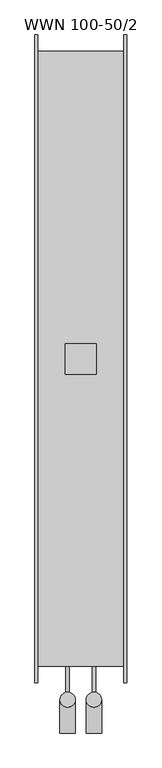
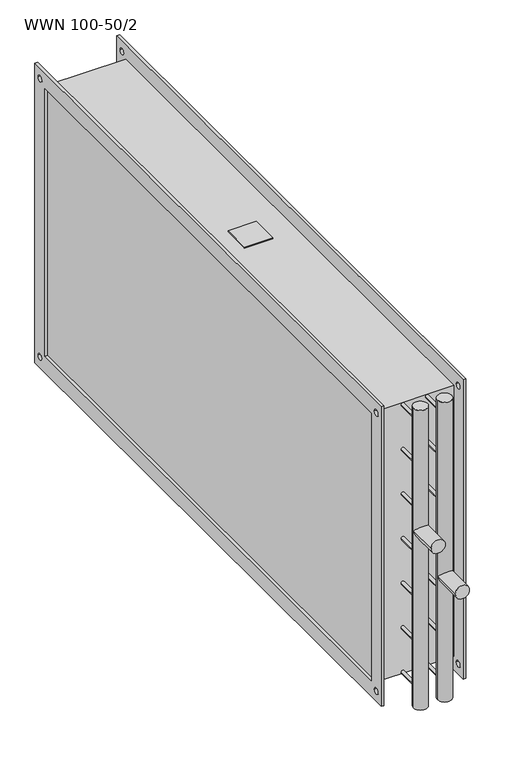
"""IFC4 building model written with IfcOpenShell, lengths in millimetres: proxy geometry, KORF_Нагреватель_Водяной_WWN : WWN 100-50/2."""

import ifcopenshell
import ifcopenshell.guid

model = None  # the IFC model being written
_history = None  # IfcOwnerHistory: only IFC2X3 demands one
_inside = {}  # id of a spatial element -> (the spatial element, [elements in it])
_under = {}  # id of a project, library or spatial element -> (it, [spatial elements below it])
_declared = {}  # id of a project -> (the project, [libraries it declares])
_typed = {}  # id of a type object -> (the type object, [elements of that type])
_made_of = {}  # id of a material, layer set ... -> (it, [elements and type objects made of it])


def new_model(schema):
    """Start an empty IFC model of exactly this schema.

    Asked for "IFC4X3", IfcOpenShell would pick the latest addendum, in which some entities
    have other attributes; the version numbers below select the first issue.
    IFC2X3 requires an IfcOwnerHistory on every rooted entity: one is made here for all.
    """
    global model, _history
    if schema == "IFC4X3":
        model = ifcopenshell.file(schema_version=(4, 3, 0, 0))
    else:
        model = ifcopenshell.file(schema=schema)
    _inside.clear()
    _under.clear()
    _declared.clear()
    _typed.clear()
    _made_of.clear()
    _history = None
    if model.schema == "IFC2X3":
        org = make("IfcOrganization", Name="unknown")
        user = make(
            "IfcPersonAndOrganization",
            ThePerson=make("IfcPerson", FamilyName="unknown"),
            TheOrganization=org,
        )
        app = make(
            "IfcApplication",
            ApplicationDeveloper=org,
            Version="unknown",
            ApplicationFullName="unknown",
            ApplicationIdentifier="unknown",
        )
        _history = make(
            "IfcOwnerHistory",
            OwningUser=user,
            OwningApplication=app,
            ChangeAction="ADDED",
            CreationDate=0,
        )
    return model


def make(cls, **values):
    """One entity of the class cls with the attributes given. An attribute that is None is left unset."""
    return model.create_entity(
        cls, **{name: value for name, value in values.items() if value is not None}
    )


def rooted(cls, **values):
    """An entity with a GlobalId (a new one), such as an element, a storey or a relation."""
    return make(cls, GlobalId=ifcopenshell.guid.new(), OwnerHistory=_history, **values)


def si_unit(unit_type, name, prefix=None):
    """IfcSIUnit, for example si_unit("LENGTHUNIT", "METRE", prefix="MILLI")."""
    return make("IfcSIUnit", UnitType=unit_type, Prefix=prefix, Name=name)


def assignment(units):
    """IfcUnitAssignment: the units of a project."""
    return None if units is None else make("IfcUnitAssignment", Units=units)


def point(xyz):
    """IfcCartesianPoint."""
    return None if xyz is None else make("IfcCartesianPoint", Coordinates=xyz)


def direction(xyz):
    """IfcDirection."""
    return None if xyz is None else make("IfcDirection", DirectionRatios=xyz)


def frame(location, z_axis=None, x_axis=None):
    """IfcAxis2Placement3D, a coordinate frame: its origin and axes. An axis left out is left unset."""
    return make(
        "IfcAxis2Placement3D",
        Location=point(location),
        Axis=direction(z_axis),
        RefDirection=direction(x_axis),
    )


def frame_2d(location, x_axis=None):
    """IfcAxis2Placement2D, a coordinate frame in the plane: its origin and x axis."""
    return make(
        "IfcAxis2Placement2D", Location=point(location), RefDirection=direction(x_axis)
    )


def origin():
    """The frame at (0, 0, 0) with its axes left unset."""
    return frame((0.0, 0.0, 0.0))


def place(relative_to, where):
    """IfcLocalPlacement: puts the frame where relative to a parent placement (None: the world)."""
    return make(
        "IfcLocalPlacement", PlacementRelTo=relative_to, RelativePlacement=where
    )


def context(
    kind, dimensions, precision=None, world=None, true_north=None, identifier=None
):
    """IfcGeometricRepresentationContext, for example the 3D "Model" context."""
    return make(
        "IfcGeometricRepresentationContext",
        ContextIdentifier=identifier,
        ContextType=kind,
        CoordinateSpaceDimension=dimensions,
        Precision=precision,
        WorldCoordinateSystem=world,
        TrueNorth=true_north,
    )


def project(units=None, contexts=None):
    """IfcProject with its units and contexts."""
    return rooted(
        "IfcProject",
        Name="project",
        RepresentationContexts=contexts,
        UnitsInContext=assignment(units),
    )


def spatial(cls, under=None, at=None, **own):
    """A site, building, storey or space (cls), placed at a placement, below another one or the project."""
    s = rooted(cls, ObjectPlacement=at, **own)
    if under is not None:
        _under.setdefault(under.id(), (under, []))[1].append(s)
    return s


def polyline(points):
    """IfcPolyline through the points."""
    return make("IfcPolyline", Points=[point(p) for p in points])


def circle_curve(where, radius):
    """IfcCircle in the frame where."""
    return make("IfcCircle", Position=where, Radius=radius)


def ellipse_curve(where, semi_axis1, semi_axis2):
    """IfcEllipse in the frame where."""
    return make(
        "IfcEllipse", Position=where, SemiAxis1=semi_axis1, SemiAxis2=semi_axis2
    )


def trimmed(basis, trim1, trim2, sense, master):
    """IfcTrimmedCurve: the piece of a basis curve between two trims."""
    return make(
        "IfcTrimmedCurve",
        BasisCurve=basis,
        Trim1=trim1,
        Trim2=trim2,
        SenseAgreement=sense,
        MasterRepresentation=master,
    )


def segment(curve, same_sense, transition):
    """IfcCompositeCurveSegment."""
    return make(
        "IfcCompositeCurveSegment",
        Transition=transition,
        SameSense=same_sense,
        ParentCurve=curve,
    )


def composite_curve(segments, self_intersect=None):
    """IfcCompositeCurve: segments joined end to end."""
    return make("IfcCompositeCurve", Segments=segments, SelfIntersect=self_intersect)


def outline(outer, holes=None, kind="AREA"):
    """IfcArbitraryClosedProfileDef: a profile drawn as a closed curve; with holes, ...WithVoids."""
    if holes is None:
        return make("IfcArbitraryClosedProfileDef", ProfileType=kind, OuterCurve=outer)
    return make(
        "IfcArbitraryProfileDefWithVoids",
        ProfileType=kind,
        OuterCurve=outer,
        InnerCurves=holes,
    )


def extrude(swept, where, along, depth):
    """IfcExtrudedAreaSolid: the profile swept, set in the frame where, extruded along a direction by depth."""
    return make(
        "IfcExtrudedAreaSolid",
        SweptArea=swept,
        Position=where,
        ExtrudedDirection=direction(along),
        Depth=depth,
    )


def shape(context_of_items, identifier, shape_type, items):
    """IfcShapeRepresentation: the items that make up one representation, for example the "Body"."""
    return make(
        "IfcShapeRepresentation",
        ContextOfItems=context_of_items,
        RepresentationIdentifier=identifier,
        RepresentationType=shape_type,
        Items=items,
    )


def source(mapping_origin, context_of_items, identifier, shape_type, items):
    """IfcRepresentationMap: a shape defined once, which mapped items show again and again."""
    return make(
        "IfcRepresentationMap",
        MappingOrigin=mapping_origin,
        MappedRepresentation=shape(context_of_items, identifier, shape_type, items),
    )


def transform(
    local_origin,
    x_axis=None,
    y_axis=None,
    z_axis=None,
    scale=None,
    scale2=None,
    scale3=None,
    uniform=True,
):
    """IfcCartesianTransformationOperator3D, or its non-uniform kind. x_axis, y_axis, z_axis: its Axis1, 2, 3."""
    if uniform:
        return make(
            "IfcCartesianTransformationOperator3D",
            Axis1=direction(x_axis),
            Axis2=direction(y_axis),
            LocalOrigin=point(local_origin),
            Scale=scale,
            Axis3=direction(z_axis),
        )
    return make(
        "IfcCartesianTransformationOperator3DnonUniform",
        Axis1=direction(x_axis),
        Axis2=direction(y_axis),
        LocalOrigin=point(local_origin),
        Scale=scale,
        Axis3=direction(z_axis),
        Scale2=scale2,
        Scale3=scale3,
    )


def mapped(mapping_source, mapping_target):
    """IfcMappedItem: shows the shape of a source again, moved by a transform."""
    return make(
        "IfcMappedItem", MappingSource=mapping_source, MappingTarget=mapping_target
    )


def made_of(thing, what):
    """Note that an element or type object is made of a material, layer set ...; save() writes the relation."""
    if what is not None:
        _made_of.setdefault(what.id(), (what, []))[1].append(thing)
    return thing


def element(
    cls,
    number,
    at=None,
    inside=None,
    cuts=None,
    type_object=None,
    material=None,
    context=None,
    identifier="Body",
    shape_type=None,
    held_by="IfcProductDefinitionShape",
    body=None,
    shapes=None,
    **own,
):
    """One element of the class cls, such as IfcWall. Its Tag is "e" and its number.

    at: its placement. inside: the storey or other place that contains it. cuts: it is an
    opening in that element (IfcRelVoidsElement). A single representation is given by context,
    identifier, shape_type and body (its items); several are given by shapes. held_by: the class
    of the entity that holds the representations. save() writes the other relations.
    """
    e = rooted(cls, Tag="e%d" % number, ObjectPlacement=at, **own)
    if body is not None:
        shapes = [shape(context, identifier, shape_type, body)]
    if shapes is not None:
        e.Representation = make(held_by, Representations=shapes)
    if inside is not None:
        _inside.setdefault(inside.id(), (inside, []))[1].append(e)
    if cuts is not None:
        rooted(
            "IfcRelVoidsElement", RelatingBuildingElement=cuts, RelatedOpeningElement=e
        )
    if type_object is not None:
        _typed.setdefault(type_object.id(), (type_object, []))[1].append(e)
    return made_of(e, material)


def aggregate(whole, parts):
    """IfcRelAggregates: a whole, such as a stair, and the parts it consists of."""
    return rooted("IfcRelAggregates", RelatingObject=whole, RelatedObjects=parts)


def save(model, path):
    """Write the relations noted so far, then the file.

    IfcRelAggregates (storeys below a building ...), IfcRelContainedInSpatialStructure (elements
    in a storey), IfcRelDefinesByType, IfcRelAssociatesMaterial and IfcRelDeclares: one each for
    every whole, place, type object, material and project.
    """
    for whole, parts in _under.values():
        aggregate(whole, parts)
    for where, things in _inside.values():
        rooted(
            "IfcRelContainedInSpatialStructure",
            RelatedElements=things,
            RelatingStructure=where,
        )
    for kind, things in _typed.values():
        rooted("IfcRelDefinesByType", RelatedObjects=things, RelatingType=kind)
    for what, things in _made_of.values():
        rooted("IfcRelAssociatesMaterial", RelatedObjects=things, RelatingMaterial=what)
    for by, libraries in _declared.values():
        rooted("IfcRelDeclares", RelatingContext=by, RelatedDefinitions=libraries)
    model.write(path)


def plane_surface(at):
    """IfcPlane: the flat surface through the origin of the frame at, square to its z axis."""
    return make("IfcPlane", Position=at)


def cylinder_surface(at, radius):
    """IfcCylindricalSurface: all points at the distance radius from the z axis of the frame at."""
    return make("IfcCylindricalSurface", Position=at, Radius=radius)


def advanced_brep(points, edges, surfaces, faces):
    """IfcAdvancedBrep: a solid bounded by faces that lie on surfaces and meet in shared edges.

    An edge is (start, end): straight between two places in points (the first is 0);
    or (start, end, curve); or (start, end, curve, False) where it runs against its curve.
    A face is (place in surfaces, loops), or (place, loops, False) where it looks against
    its surface's normal. A loop lists edges by number (the first is 1), with a minus sign
    where the edge is run from its end to its start. The first loop is the outer one.
    """
    corners = [point(p) for p in points]
    vertices = [make("IfcVertexPoint", VertexGeometry=c) for c in corners]
    made = []
    for start, end, *more in edges:
        made.append(
            make(
                "IfcEdgeCurve",
                EdgeStart=vertices[start],
                EdgeEnd=vertices[end],
                EdgeGeometry=more[0] if more else make("IfcPolyline", Points=[corners[start], corners[end]]),
                SameSense=more[1] if len(more) > 1 else True,
            )
        )
    hull = []
    for where, loops, *sense in faces:
        bounds = []
        for j, loop in enumerate(loops):
            ring = [make("IfcOrientedEdge", EdgeElement=made[abs(k) - 1], Orientation=k > 0) for k in loop]
            bounds.append(
                make(
                    "IfcFaceOuterBound" if j == 0 else "IfcFaceBound",
                    Bound=make("IfcEdgeLoop", EdgeList=ring),
                    Orientation=True,
                )
            )
        hull.append(make("IfcAdvancedFace", Bounds=bounds, FaceSurface=surfaces[where], SameSense=sense[0] if sense else True))
    return make("IfcAdvancedBrep", Outer=make("IfcClosedShell", CfsFaces=hull))


def wwn_100_50_2_a8e9ff89(model_context):
    return source(origin(), model_context, "Body", "SolidModel", [
        extrude(outline(polyline([(50.0, -25.0), (50.0, 25.0), (100.0, 25.0), (100.0, -25.0), (50.0, -25.0)])), frame((0.0, 0.0, 253.0), z_axis=(0.0, 0.0, 1.0), x_axis=(1.0, 0.0, 0.0)), (0.0, 0.0, 1.0), 2.0),
        extrude(outline(polyline([(-530.0, 280.0), (530.0, 280.0), (530.0, -280.0), (-530.0, -280.0), (-530.0, 280.0)]), holes=[polyline([(-500.0, 250.0), (-500.0, -250.0), (500.0, -250.0), (500.0, 250.0), (-500.0, 250.0)]), composite_curve([segment(trimmed(circle_curve(frame_2d((515.0, 260.0)), 5.5), [point((509.5, 260.0))], [point((520.5, 260.0))], True, "CARTESIAN"), True, "CONTINUOUS"), segment(trimmed(circle_curve(frame_2d((515.0, 260.0)), 5.5), [point((520.5, 260.0))], [point((509.5, 260.0))], True, "CARTESIAN"), True, "CONTINUOUS")], self_intersect=False), composite_curve([segment(trimmed(circle_curve(frame_2d((-515.0, 260.0)), 5.5), [point((-520.5, 260.0))], [point((-509.5, 260.0))], True, "CARTESIAN"), True, "CONTINUOUS"), segment(trimmed(circle_curve(frame_2d((-515.0, 260.0)), 5.5), [point((-509.5, 260.0))], [point((-520.5, 260.0))], True, "CARTESIAN"), True, "CONTINUOUS")], self_intersect=False), composite_curve([segment(trimmed(circle_curve(frame_2d((-515.0, -260.0)), 5.5), [point((-520.5, -260.0))], [point((-509.5, -260.0))], True, "CARTESIAN"), True, "CONTINUOUS"), segment(trimmed(circle_curve(frame_2d((-515.0, -260.0)), 5.5), [point((-509.5, -260.0))], [point((-520.5, -260.0))], True, "CARTESIAN"), True, "CONTINUOUS")], self_intersect=False), composite_curve([segment(trimmed(circle_curve(frame_2d((515.0, -260.0)), 5.5), [point((509.5, -260.0))], [point((520.5, -260.0))], True, "CARTESIAN"), True, "CONTINUOUS"), segment(trimmed(circle_curve(frame_2d((515.0, -260.0)), 5.5), [point((520.5, -260.0))], [point((509.5, -260.0))], True, "CARTESIAN"), True, "CONTINUOUS")], self_intersect=False)]), frame((145.0, 0.0, 0.0), z_axis=(1.0, 0.0, 0.0), x_axis=(0.0, 1.0, 0.0)), (0.0, 0.0, 1.0), 5.0),
        extrude(outline(polyline([(-530.0, 280.0), (530.0, 280.0), (530.0, -280.0), (-530.0, -280.0), (-530.0, 280.0)]), holes=[polyline([(-500.0, 250.0), (-500.0, -250.0), (500.0, -250.0), (500.0, 250.0), (-500.0, 250.0)]), composite_curve([segment(trimmed(circle_curve(frame_2d((515.0, 260.0)), 5.5), [point((509.5, 260.0))], [point((520.5, 260.0))], True, "CARTESIAN"), True, "CONTINUOUS"), segment(trimmed(circle_curve(frame_2d((515.0, 260.0)), 5.5), [point((520.5, 260.0))], [point((509.5, 260.0))], True, "CARTESIAN"), True, "CONTINUOUS")], self_intersect=False), composite_curve([segment(trimmed(circle_curve(frame_2d((-515.0, 260.0)), 5.5), [point((-520.5, 260.0))], [point((-509.5, 260.0))], True, "CARTESIAN"), True, "CONTINUOUS"), segment(trimmed(circle_curve(frame_2d((-515.0, 260.0)), 5.5), [point((-509.5, 260.0))], [point((-520.5, 260.0))], True, "CARTESIAN"), True, "CONTINUOUS")], self_intersect=False), composite_curve([segment(trimmed(circle_curve(frame_2d((-515.0, -260.0)), 5.5), [point((-520.5, -260.0))], [point((-509.5, -260.0))], True, "CARTESIAN"), True, "CONTINUOUS"), segment(trimmed(circle_curve(frame_2d((-515.0, -260.0)), 5.5), [point((-509.5, -260.0))], [point((-520.5, -260.0))], True, "CARTESIAN"), True, "CONTINUOUS")], self_intersect=False), composite_curve([segment(trimmed(circle_curve(frame_2d((515.0, -260.0)), 5.5), [point((509.5, -260.0))], [point((520.5, -260.0))], True, "CARTESIAN"), True, "CONTINUOUS"), segment(trimmed(circle_curve(frame_2d((515.0, -260.0)), 5.5), [point((520.5, -260.0))], [point((509.5, -260.0))], True, "CARTESIAN"), True, "CONTINUOUS")], self_intersect=False)]), frame((0.0, 0.0, 0.0), z_axis=(1.0, 0.0, 0.0), x_axis=(0.0, 1.0, 0.0)), (0.0, 0.0, 1.0), 5.0),
        extrude(outline(polyline([(145.0, 503.0), (145.0, -503.0), (5.0, -503.0), (5.0, 503.0), (145.0, 503.0)])), frame((0.0, 0.0, -253.0), z_axis=(0.0, 0.0, 1.0), x_axis=(1.0, 0.0, 0.0)), (0.0, 0.0, 1.0), 506.0),
        advanced_brep(
        [(41.0, -612.0, 50.0), (66.0, -612.0, 50.0), (41.0, -557.5, 50.0), (66.0, -557.5, 50.0), (41.0, -557.5, 280.0), (66.0, -557.5, 280.0), (41.0, -557.5, -280.0), (66.0, -557.5, -280.0)],
        [
            (0, 1, circle_curve(frame((53.5, -612.0, 50.0), z_axis=(0.0, -1.0, 0.0), x_axis=(1.0, 0.0, 0.0)), 12.5)),
            (1, 0, circle_curve(frame((53.5, -612.0, 50.0), z_axis=(0.0, -1.0, 0.0), x_axis=(1.0, 0.0, 0.0)), 12.5)),
            (0, 2),
            (2, 3, ellipse_curve(frame((53.5, -557.5, 50.0), z_axis=(0.0, -0.7071067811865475, 0.7071067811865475), x_axis=(0.0, -0.7071067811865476, -0.7071067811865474)), 17.6776695, 12.5)),
            (3, 1),
            (3, 2, ellipse_curve(frame((53.5, -557.5, 50.0), z_axis=(0.0, -0.7071067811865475, -0.7071067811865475), x_axis=(0.0, -0.7071067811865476, 0.7071067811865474)), 17.6776695, 12.5)),
            (4, 5, circle_curve(frame((53.5, -557.5, 280.0), z_axis=(0.0, 0.0, 1.0), x_axis=(1.0, 0.0, 0.0)), 12.5)),
            (5, 4, circle_curve(frame((53.5, -557.5, 280.0), z_axis=(0.0, 0.0, 1.0), x_axis=(1.0, 0.0, 0.0)), 12.5)),
            (6, 7, circle_curve(frame((53.5, -557.5, -280.0), z_axis=(0.0, 0.0, -1.0), x_axis=(1.0, 0.0, 0.0)), 12.5)),
            (7, 6, circle_curve(frame((53.5, -557.5, -280.0), z_axis=(0.0, 0.0, -1.0), x_axis=(1.0, 0.0, 0.0)), 12.5)),
            (4, 2),
            (3, 5),
            (7, 3),
            (2, 6),
        ],
        [
            plane_surface(frame((66.0, -612.0, 50.0), z_axis=(0.0, -1.0, 0.0), x_axis=(0.0, 0.0, 1.0))),
            cylinder_surface(frame((53.5, -557.5, 50.0), z_axis=(0.0, -1.0, 0.0), x_axis=(1.0, 0.0, 0.0)), 12.5),
            plane_surface(frame((66.0, -557.5, 280.0), z_axis=(0.0, 0.0, 1.0), x_axis=(0.0, 1.0, 0.0))),
            plane_surface(frame((66.0, -557.5, -280.0), z_axis=(0.0, 0.0, -1.0), x_axis=(0.0, -1.0, 0.0))),
            cylinder_surface(frame((53.5, -557.5, -280.0), z_axis=(0.0, 0.0, 1.0), x_axis=(1.0, 0.0, 0.0)), 12.5),
        ],
        [
            (0, [[1, 2]]),
            (1, [[-1, 3, 4, 5]]),
            (1, [[-2, -5, 6, -3]]),
            (2, [[7, 8]]),
            (3, [[9, 10]]),
            (4, [[-7, 11, -6, 12]]),
            (4, [[-10, 13, -4, 14]]),
            (4, [[-8, -12, -13, -9, -14, -11]]),
        ],
    ),
        advanced_brep(
        [(84.0, -612.0, -50.0), (109.0, -612.0, -50.0), (84.0, -557.5, -50.0), (109.0, -557.5, -50.0), (84.0, -557.5, 280.0), (109.0, -557.5, 280.0), (84.0, -557.5, -280.0), (109.0, -557.5, -280.0)],
        [
            (0, 1, circle_curve(frame((96.5, -612.0, -50.0), z_axis=(0.0, -1.0, 0.0), x_axis=(1.0, 0.0, 0.0)), 12.5)),
            (1, 0, circle_curve(frame((96.5, -612.0, -50.0), z_axis=(0.0, -1.0, 0.0), x_axis=(1.0, 0.0, 0.0)), 12.5)),
            (0, 2),
            (2, 3, ellipse_curve(frame((96.5, -557.5, -50.0), z_axis=(0.0, -0.7071067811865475, 0.7071067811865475), x_axis=(0.0, -0.7071067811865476, -0.7071067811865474)), 17.6776695, 12.5)),
            (3, 1),
            (3, 2, ellipse_curve(frame((96.5, -557.5, -50.0), z_axis=(0.0, -0.7071067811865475, -0.7071067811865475), x_axis=(0.0, -0.7071067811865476, 0.7071067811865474)), 17.6776695, 12.5)),
            (4, 5, circle_curve(frame((96.5, -557.5, 280.0), z_axis=(0.0, 0.0, 1.0), x_axis=(1.0, 0.0, 0.0)), 12.5)),
            (5, 4, circle_curve(frame((96.5, -557.5, 280.0), z_axis=(0.0, 0.0, 1.0), x_axis=(1.0, 0.0, 0.0)), 12.5)),
            (6, 7, circle_curve(frame((96.5, -557.5, -280.0), z_axis=(0.0, 0.0, -1.0), x_axis=(1.0, 0.0, 0.0)), 12.5)),
            (7, 6, circle_curve(frame((96.5, -557.5, -280.0), z_axis=(0.0, 0.0, -1.0), x_axis=(1.0, 0.0, 0.0)), 12.5)),
            (4, 2),
            (3, 5),
            (7, 3),
            (2, 6),
        ],
        [
            plane_surface(frame((66.0, -612.0, 50.0), z_axis=(0.0, -1.0, 0.0), x_axis=(0.0, 0.0, 1.0))),
            cylinder_surface(frame((96.5, 0.0, -50.0), z_axis=(0.0, -1.0, 0.0), x_axis=(1.0, 0.0, 0.0)), 12.5),
            plane_surface(frame((66.0, -557.5, 280.0), z_axis=(0.0, 0.0, 1.0), x_axis=(0.0, 1.0, 0.0))),
            plane_surface(frame((66.0, -557.5, -280.0), z_axis=(0.0, 0.0, -1.0), x_axis=(0.0, -1.0, 0.0))),
            cylinder_surface(frame((96.5, -557.5, 0.0), z_axis=(0.0, 0.0, 1.0), x_axis=(1.0, 0.0, 0.0)), 12.5),
        ],
        [
            (0, [[1, 2]]),
            (1, [[-1, 3, 4, 5]]),
            (1, [[-2, -5, 6, -3]]),
            (2, [[7, 8]]),
            (3, [[9, 10]]),
            (4, [[-7, 11, -6, 12]]),
            (4, [[-10, 13, -4, 14]]),
            (4, [[-8, -12, -13, -9, -14, -11]]),
        ],
    ),
        extrude(outline(composite_curve([segment(trimmed(circle_curve(frame_2d((250.0, 53.5)), 3.0), [point((250.0, 50.5))], [point((250.0, 56.5))], False, "CARTESIAN"), True, "CONTINUOUS"), segment(trimmed(circle_curve(frame_2d((250.0, 53.5)), 3.0), [point((250.0, 56.5))], [point((250.0, 50.5))], False, "CARTESIAN"), True, "CONTINUOUS")], self_intersect=False)), frame((0.0, -557.5, 0.0), z_axis=(0.0, 1.0, 0.0), x_axis=(0.0, 0.0, 1.0)), (0.0, 0.0, 1.0), 54.5),
        extrude(outline(composite_curve([segment(trimmed(circle_curve(frame_2d((166.6666667, 53.5)), 3.0), [point((166.6666667, 50.5))], [point((166.6666667, 56.5))], False, "CARTESIAN"), True, "CONTINUOUS"), segment(trimmed(circle_curve(frame_2d((166.6666667, 53.5)), 3.0), [point((166.6666667, 56.5))], [point((166.6666667, 50.5))], False, "CARTESIAN"), True, "CONTINUOUS")], self_intersect=False)), frame((0.0, -557.5, 0.0), z_axis=(0.0, 1.0, 0.0), x_axis=(0.0, 0.0, 1.0)), (0.0, 0.0, 1.0), 54.5),
        extrude(outline(composite_curve([segment(trimmed(circle_curve(frame_2d((83.3333333, 53.5)), 3.0), [point((83.3333333, 50.5))], [point((83.3333333, 56.5))], False, "CARTESIAN"), True, "CONTINUOUS"), segment(trimmed(circle_curve(frame_2d((83.3333333, 53.5)), 3.0), [point((83.3333333, 56.5))], [point((83.3333333, 50.5))], False, "CARTESIAN"), True, "CONTINUOUS")], self_intersect=False)), frame((0.0, -557.5, 0.0), z_axis=(0.0, 1.0, 0.0), x_axis=(0.0, 0.0, 1.0)), (0.0, 0.0, 1.0), 54.5),
        extrude(outline(composite_curve([segment(trimmed(circle_curve(frame_2d((0.0, 53.5)), 3.0), [point((0.0, 50.5))], [point((0.0, 56.5))], False, "CARTESIAN"), True, "CONTINUOUS"), segment(trimmed(circle_curve(frame_2d((0.0, 53.5)), 3.0), [point((0.0, 56.5))], [point((0.0, 50.5))], False, "CARTESIAN"), True, "CONTINUOUS")], self_intersect=False)), frame((0.0, -557.5, 0.0), z_axis=(0.0, 1.0, 0.0), x_axis=(0.0, 0.0, 1.0)), (0.0, 0.0, 1.0), 54.5),
        extrude(outline(composite_curve([segment(trimmed(circle_curve(frame_2d((-83.3333333, 53.5)), 3.0), [point((-83.3333333, 50.5))], [point((-83.3333333, 56.5))], False, "CARTESIAN"), True, "CONTINUOUS"), segment(trimmed(circle_curve(frame_2d((-83.3333333, 53.5)), 3.0), [point((-83.3333333, 56.5))], [point((-83.3333333, 50.5))], False, "CARTESIAN"), True, "CONTINUOUS")], self_intersect=False)), frame((0.0, -557.5, 0.0), z_axis=(0.0, 1.0, 0.0), x_axis=(0.0, 0.0, 1.0)), (0.0, 0.0, 1.0), 54.5),
        extrude(outline(composite_curve([segment(trimmed(circle_curve(frame_2d((-166.6666667, 53.5)), 3.0), [point((-166.6666667, 50.5))], [point((-166.6666667, 56.5))], False, "CARTESIAN"), True, "CONTINUOUS"), segment(trimmed(circle_curve(frame_2d((-166.6666667, 53.5)), 3.0), [point((-166.6666667, 56.5))], [point((-166.6666667, 50.5))], False, "CARTESIAN"), True, "CONTINUOUS")], self_intersect=False)), frame((0.0, -557.5, 0.0), z_axis=(0.0, 1.0, 0.0), x_axis=(0.0, 0.0, 1.0)), (0.0, 0.0, 1.0), 54.5),
        extrude(outline(composite_curve([segment(trimmed(circle_curve(frame_2d((-166.6666667, 96.5)), 3.0), [point((-166.6666667, 93.5))], [point((-166.6666667, 99.5))], False, "CARTESIAN"), True, "CONTINUOUS"), segment(trimmed(circle_curve(frame_2d((-166.6666667, 96.5)), 3.0), [point((-166.6666667, 99.5))], [point((-166.6666667, 93.5))], False, "CARTESIAN"), True, "CONTINUOUS")], self_intersect=False)), frame((0.0, -557.5, 0.0), z_axis=(0.0, 1.0, 0.0), x_axis=(0.0, 0.0, 1.0)), (0.0, 0.0, 1.0), 54.5),
        extrude(outline(composite_curve([segment(trimmed(circle_curve(frame_2d((-83.3333333, 96.5)), 3.0), [point((-83.3333333, 93.5))], [point((-83.3333333, 99.5))], False, "CARTESIAN"), True, "CONTINUOUS"), segment(trimmed(circle_curve(frame_2d((-83.3333333, 96.5)), 3.0), [point((-83.3333333, 99.5))], [point((-83.3333333, 93.5))], False, "CARTESIAN"), True, "CONTINUOUS")], self_intersect=False)), frame((0.0, -557.5, 0.0), z_axis=(0.0, 1.0, 0.0), x_axis=(0.0, 0.0, 1.0)), (0.0, 0.0, 1.0), 54.5),
        extrude(outline(composite_curve([segment(trimmed(circle_curve(frame_2d((0.0, 96.5)), 3.0), [point((0.0, 93.5))], [point((0.0, 99.5))], False, "CARTESIAN"), True, "CONTINUOUS"), segment(trimmed(circle_curve(frame_2d((0.0, 96.5)), 3.0), [point((0.0, 99.5))], [point((0.0, 93.5))], False, "CARTESIAN"), True, "CONTINUOUS")], self_intersect=False)), frame((0.0, -557.5, 0.0), z_axis=(0.0, 1.0, 0.0), x_axis=(0.0, 0.0, 1.0)), (0.0, 0.0, 1.0), 54.5),
        extrude(outline(composite_curve([segment(trimmed(circle_curve(frame_2d((83.3333333, 96.5)), 3.0), [point((83.3333333, 93.5))], [point((83.3333333, 99.5))], False, "CARTESIAN"), True, "CONTINUOUS"), segment(trimmed(circle_curve(frame_2d((83.3333333, 96.5)), 3.0), [point((83.3333333, 99.5))], [point((83.3333333, 93.5))], False, "CARTESIAN"), True, "CONTINUOUS")], self_intersect=False)), frame((0.0, -557.5, 0.0), z_axis=(0.0, 1.0, 0.0), x_axis=(0.0, 0.0, 1.0)), (0.0, 0.0, 1.0), 54.5),
        extrude(outline(composite_curve([segment(trimmed(circle_curve(frame_2d((166.6666667, 96.5)), 3.0), [point((166.6666667, 93.5))], [point((166.6666667, 99.5))], False, "CARTESIAN"), True, "CONTINUOUS"), segment(trimmed(circle_curve(frame_2d((166.6666667, 96.5)), 3.0), [point((166.6666667, 99.5))], [point((166.6666667, 93.5))], False, "CARTESIAN"), True, "CONTINUOUS")], self_intersect=False)), frame((0.0, -557.5, 0.0), z_axis=(0.0, 1.0, 0.0), x_axis=(0.0, 0.0, 1.0)), (0.0, 0.0, 1.0), 54.5),
        extrude(outline(composite_curve([segment(trimmed(circle_curve(frame_2d((250.0, 96.5)), 3.0), [point((250.0, 93.5))], [point((250.0, 99.5))], False, "CARTESIAN"), True, "CONTINUOUS"), segment(trimmed(circle_curve(frame_2d((250.0, 96.5)), 3.0), [point((250.0, 99.5))], [point((250.0, 93.5))], False, "CARTESIAN"), True, "CONTINUOUS")], self_intersect=False)), frame((0.0, -557.5, 0.0), z_axis=(0.0, 1.0, 0.0), x_axis=(0.0, 0.0, 1.0)), (0.0, 0.0, 1.0), 54.5),
        extrude(outline(composite_curve([segment(trimmed(circle_curve(frame_2d((-250.0, 53.5)), 3.0), [point((-250.0, 50.5))], [point((-250.0, 56.5))], False, "CARTESIAN"), True, "CONTINUOUS"), segment(trimmed(circle_curve(frame_2d((-250.0, 53.5)), 3.0), [point((-250.0, 56.5))], [point((-250.0, 50.5))], False, "CARTESIAN"), True, "CONTINUOUS")], self_intersect=False)), frame((0.0, -557.5, 0.0), z_axis=(0.0, 1.0, 0.0), x_axis=(0.0, 0.0, 1.0)), (0.0, 0.0, 1.0), 54.5),
        extrude(outline(composite_curve([segment(trimmed(circle_curve(frame_2d((-250.0, 96.5)), 3.0), [point((-250.0, 93.5))], [point((-250.0, 99.5))], False, "CARTESIAN"), True, "CONTINUOUS"), segment(trimmed(circle_curve(frame_2d((-250.0, 96.5)), 3.0), [point((-250.0, 99.5))], [point((-250.0, 93.5))], False, "CARTESIAN"), True, "CONTINUOUS")], self_intersect=False)), frame((0.0, -557.5, 0.0), z_axis=(0.0, 1.0, 0.0), x_axis=(0.0, 0.0, 1.0)), (0.0, 0.0, 1.0), 54.5),
    ])


if __name__ == "__main__":
    model = new_model("IFC4")
    model_context = context("Model", 3, world=origin())
    ifc_project = project(units=[si_unit("LENGTHUNIT", "METRE", prefix="MILLI")], contexts=[model_context])
    site = spatial("IfcSite", under=ifc_project)
    building = spatial("IfcBuilding", under=site)
    placement = place(None, origin())
    wwn_100_50_2_shape = wwn_100_50_2_a8e9ff89(model_context)
    element("IfcBuildingElementProxy", 1, Name="KORF_Нагреватель_Водяной_WWN : WWN 100-50/2", ObjectType="KORF_Нагреватель_Водяной_WWN : WWN 100-50/2", at=placement, inside=building, context=model_context, shape_type="MappedRepresentation", body=[
        mapped(wwn_100_50_2_shape, transform((0.0, 0.0, 0.0), x_axis=(1.0, 0.0, 0.0), y_axis=(0.0, 1.0, 0.0), z_axis=(0.0, 0.0, 1.0))),
    ])
    save(model, "model.ifc")
